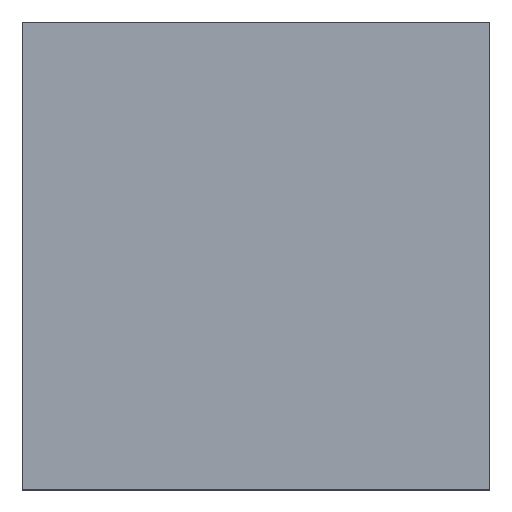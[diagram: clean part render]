
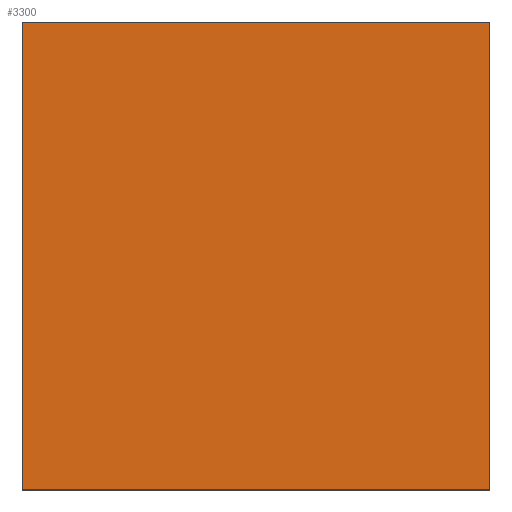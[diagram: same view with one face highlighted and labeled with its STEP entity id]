
A CAD part, top view. The second image highlights one B-rep face of the part: STEP entity #3300.
In plain terms, the highlighted planar face has unit normal (0, 0, 1).
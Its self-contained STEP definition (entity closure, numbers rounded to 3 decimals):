
#120 = CARTESIAN_POINT ('', (22.5, -22.5, -24.684));
#130 = VERTEX_POINT ('', #120);
#190 = CARTESIAN_POINT ('', (-22.5, -22.5, -24.684));
#200 = VERTEX_POINT ('', #190);
#210 = CARTESIAN_POINT ('', (-22.5, -22.5, -24.684));
#220 = CARTESIAN_POINT ('', (-7.5, -22.5, -24.684));
#230 = CARTESIAN_POINT ('', (7.5, -22.5, -24.684));
#240 = CARTESIAN_POINT ('', (22.5, -22.5, -24.684));
#250 = B_SPLINE_CURVE_WITH_KNOTS ('', 3, (#210, #220, #230, #240), .UNSPECIFIED., .F., .U., (4, 4), (0., 45.), .UNSPECIFIED.);
#260 = EDGE_CURVE ('', #200, #130, #250, .T.);
#660 = CARTESIAN_POINT ('', (22.5, 22.5, -24.684));
#670 = VERTEX_POINT ('', #660);
#730 = CARTESIAN_POINT ('', (22.5, -22.5, -24.684));
#740 = CARTESIAN_POINT ('', (22.5, -7.5, -24.684));
#750 = CARTESIAN_POINT ('', (22.5, 7.5, -24.684));
#760 = CARTESIAN_POINT ('', (22.5, 22.5, -24.684));
#770 = B_SPLINE_CURVE_WITH_KNOTS ('', 3, (#730, #740, #750, #760), .UNSPECIFIED., .F., .U., (4, 4), (0., 45.), .UNSPECIFIED.);
#780 = EDGE_CURVE ('', #130, #670, #770, .T.);
#1340 = CARTESIAN_POINT ('', (-22.5, 22.5, -24.684));
#1350 = VERTEX_POINT ('', #1340);
#1410 = CARTESIAN_POINT ('', (22.5, 22.5, -24.684));
#1420 = CARTESIAN_POINT ('', (7.5, 22.5, -24.684));
#1430 = CARTESIAN_POINT ('', (-7.5, 22.5, -24.684));
#1440 = CARTESIAN_POINT ('', (-22.5, 22.5, -24.684));
#1450 = B_SPLINE_CURVE_WITH_KNOTS ('', 3, (#1410, #1420, #1430, #1440), .UNSPECIFIED., .F., .U., (4, 4), (0., 45.), .UNSPECIFIED.);
#1460 = EDGE_CURVE ('', #670, #1350, #1450, .T.);
#1810 = CARTESIAN_POINT ('', (-22.5, 22.5, -24.684));
#1820 = CARTESIAN_POINT ('', (-22.5, 7.5, -24.684));
#1830 = CARTESIAN_POINT ('', (-22.5, -7.5, -24.684));
#1840 = CARTESIAN_POINT ('', (-22.5, -22.5, -24.684));
#1850 = B_SPLINE_CURVE_WITH_KNOTS ('', 3, (#1810, #1820, #1830, #1840), .UNSPECIFIED., .F., .U., (4, 4), (0., 45.), .UNSPECIFIED.);
#1860 = EDGE_CURVE ('', #1350, #200, #1850, .T.);
#3190 = ORIENTED_EDGE ('', *, *, #260, .T.);
#3200 = ORIENTED_EDGE ('', *, *, #780, .T.);
#3210 = ORIENTED_EDGE ('', *, *, #1460, .T.);
#3220 = ORIENTED_EDGE ('', *, *, #1860, .T.);
#3230 = EDGE_LOOP ('', (#3190, #3200, #3210, #3220));
#3240 = FACE_OUTER_BOUND ('', #3230, .T.);
#3250 = CARTESIAN_POINT ('', (0., 46.104, -24.684));
#3260 = DIRECTION ('', (0., 0., 1.));
#3270 = DIRECTION ('', (-0.707, -0.707, 0.));
#3280 = AXIS2_PLACEMENT_3D ('', #3250, #3260, #3270);
#3290 = PLANE ('', #3280);
#3300 = ADVANCED_FACE ('', (#3240), #3290, .T.);
